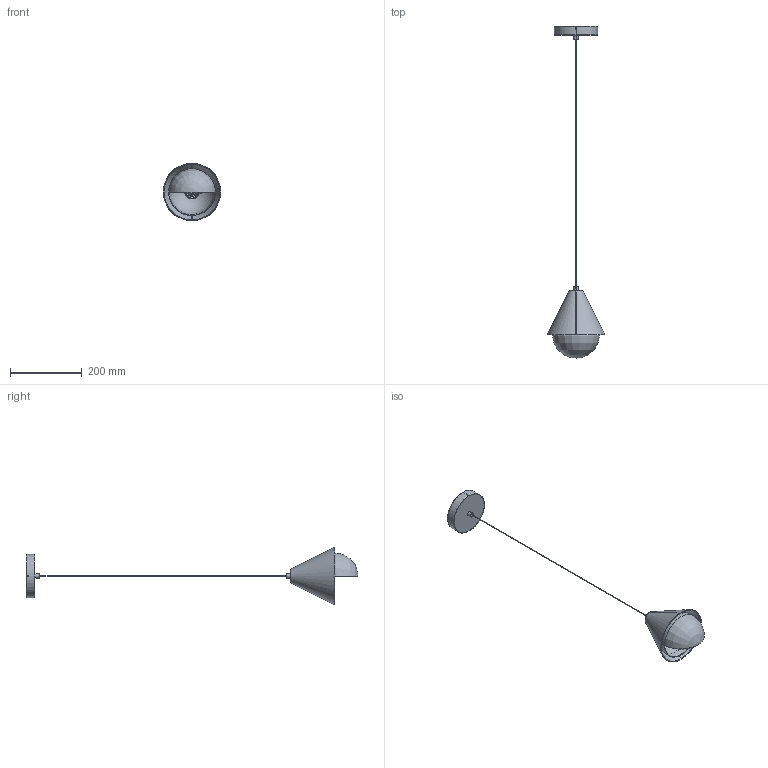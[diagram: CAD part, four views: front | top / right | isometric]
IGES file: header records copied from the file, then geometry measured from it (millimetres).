
Start section: SolidWorks IGES file using analytic representation for surfaces
Global section: file name: F:\燠隴矨\3D\2025-6\Aslo Pendant Lamp.IGS,15; native system: HSolidWorks 2022; preprocessor: SolidWorks 2022; author: MyPC; date: 250624.112842; units: millimetre
Bounding box: 160 x 925 x 160 mm (x, y, z)
Surface area: 246493.5 mm2 (no closed solid volume)
Topology: 0 solids, 0 shells, 243 faces, 3041 edges, 3038 vertices
Faces by surface type: bspline 175, revolution 68
